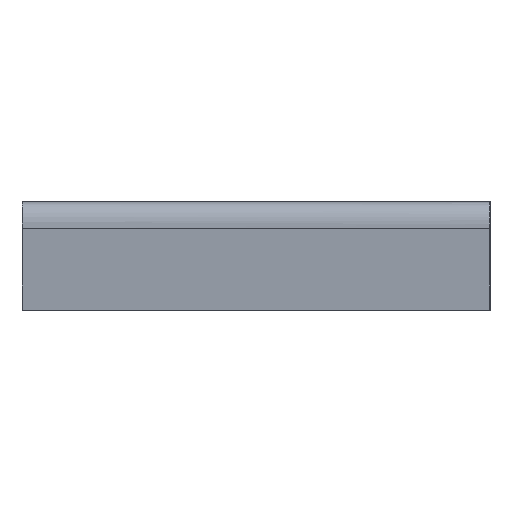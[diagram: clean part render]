
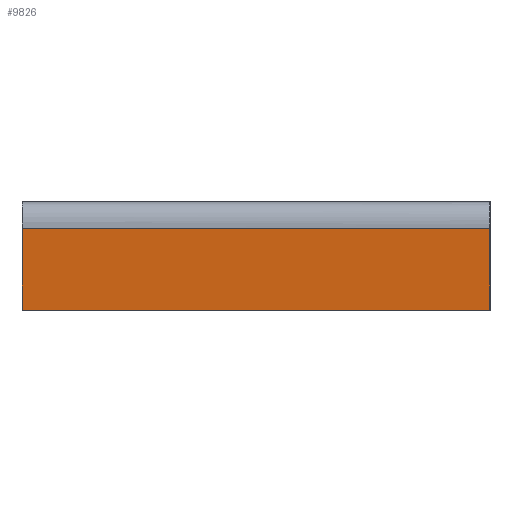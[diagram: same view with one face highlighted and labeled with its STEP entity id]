
A CAD part, left-side view. The second image highlights one B-rep face of the part: STEP entity #9826.
In plain terms, the highlighted planar face has unit normal (-0.996, 0, -0.091).
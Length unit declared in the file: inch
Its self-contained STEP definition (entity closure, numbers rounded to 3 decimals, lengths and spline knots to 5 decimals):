
#28 = AXIS2_PLACEMENT_3D ( 'NONE', #12125, #1264, #10938 ) ;
#735 = LINE ( 'NONE', #5563, #6490 ) ;
#792 = VERTEX_POINT ( 'NONE', #15276 ) ;
#1264 = DIRECTION ( 'NONE',  ( 0.996, 0., 0.091 ) ) ;
#1948 = EDGE_CURVE ( 'NONE', #3808, #7808, #4276, .T. ) ;
#3635 = EDGE_CURVE ( 'NONE', #792, #7808, #4403, .T. ) ;
#3808 = VERTEX_POINT ( 'NONE', #14363 ) ;
#4263 = EDGE_CURVE ( 'NONE', #792, #11139, #735, .T. ) ;
#4276 = LINE ( 'NONE', #4358, #11745 ) ;
#4358 = CARTESIAN_POINT ( 'NONE',  ( -18.39625, 0., 1.34581 ) ) ;
#4403 = LINE ( 'NONE', #5428, #10156 ) ;
#5428 = CARTESIAN_POINT ( 'NONE',  ( -18.03125, 60.19034, -2.65625 ) ) ;
#5563 = CARTESIAN_POINT ( 'NONE',  ( -18.39625, 22.9375, 1.34581 ) ) ;
#5721 = ORIENTED_EDGE ( 'NONE', *, *, #3635, .T. ) ;
#6490 = VECTOR ( 'NONE', #12715, 39.37008 ) ;
#7218 = ORIENTED_EDGE ( 'NONE', *, *, #10747, .F. ) ;
#7808 = VERTEX_POINT ( 'NONE', #13700 ) ;
#7918 = VECTOR ( 'NONE', #8912, 39.37008 ) ;
#8479 = PLANE ( 'NONE',  #28 ) ;
#8912 = DIRECTION ( 'NONE',  ( 0., -1., 0. ) ) ;
#9826 = ADVANCED_FACE ( 'NONE', ( #14488 ), #8479, .F. ) ;
#10018 = LINE ( 'NONE', #14921, #7918 ) ;
#10156 = VECTOR ( 'NONE', #11373, 39.37008 ) ;
#10747 = EDGE_CURVE ( 'NONE', #11139, #3808, #10018, .T. ) ;
#10938 = DIRECTION ( 'NONE',  ( -0.091, 0., 0.996 ) ) ;
#11139 = VERTEX_POINT ( 'NONE', #12459 ) ;
#11373 = DIRECTION ( 'NONE',  ( 0., -1., 0. ) ) ;
#11745 = VECTOR ( 'NONE', #15277, 39.37008 ) ;
#12082 = EDGE_LOOP ( 'NONE', ( #5721, #14456, #7218, #14910 ) ) ;
#12125 = CARTESIAN_POINT ( 'NONE',  ( -18.39625, 60.19034, 1.34581 ) ) ;
#12459 = CARTESIAN_POINT ( 'NONE',  ( -18.39625, 22.9375, 1.34581 ) ) ;
#12715 = DIRECTION ( 'NONE',  ( -0.091, 0., 0.996 ) ) ;
#13700 = CARTESIAN_POINT ( 'NONE',  ( -18.03125, 0., -2.65625 ) ) ;
#14363 = CARTESIAN_POINT ( 'NONE',  ( -18.39625, 0., 1.34581 ) ) ;
#14456 = ORIENTED_EDGE ( 'NONE', *, *, #1948, .F. ) ;
#14488 = FACE_OUTER_BOUND ( 'NONE', #12082, .T. ) ;
#14910 = ORIENTED_EDGE ( 'NONE', *, *, #4263, .F. ) ;
#14921 = CARTESIAN_POINT ( 'NONE',  ( -18.39625, 60.19034, 1.34581 ) ) ;
#15276 = CARTESIAN_POINT ( 'NONE',  ( -18.03125, 22.9375, -2.65625 ) ) ;
#15277 = DIRECTION ( 'NONE',  ( 0.091, 0., -0.996 ) ) ;
